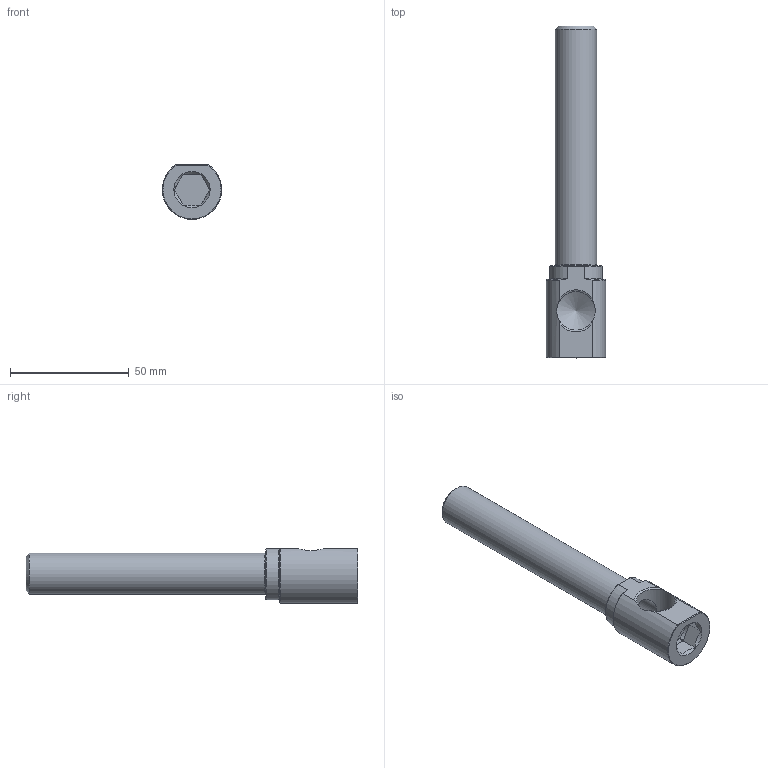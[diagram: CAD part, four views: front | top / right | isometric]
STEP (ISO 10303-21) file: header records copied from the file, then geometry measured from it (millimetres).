
FILE_DESCRIPTION(/* description */ (''),/* implementation_level */ '2;1');
FILE_NAME(/* name */ 'C:/Users/drich/Desktop/EKL38 X 5.5 v2.step',/* time_stamp */ '2019-11-18T14:41:37-06:00',/* author */ (''),/* organization */ (''),/* preprocessor_version */ 'ST-DEVELOPER v18',/* originating_system */ 'Autodesk Translation Framework v8.12.0.6',/* authorisation */ '');
FILE_SCHEMA (('AUTOMOTIVE_DESIGN { 1 0 10303 214 3 1 1 }'));
Length unit declared in the file: inch
Products named in the file (2): EKL38 X 5.5; EKL38 X 5-1/2
Assembly tree (1 placements, depth 2):
  EKL38 X 5.5
    EKL38 X 5-1/2
Bounding box: 25.01 x 139.7 x 23.03 mm (x, y, z)
Volume: 23928.1 mm3; surface area: 14610 mm2
Topology: 1 solids, 1 shells, 43 faces, 116 edges, 76 vertices
Faces by surface type: plane 21, cone 11, cylinder 11
Full cylindrical faces by diameter (mm): 11.887 x1, 16.231 x1, 17.328 x1
Entity records: 1463 total; most frequent: CARTESIAN_POINT 345, ORIENTED_EDGE 230, DIRECTION 218, EDGE_CURVE 115, AXIS2_PLACEMENT_3D 81, VERTEX_POINT 76, LINE 56, VECTOR 56
